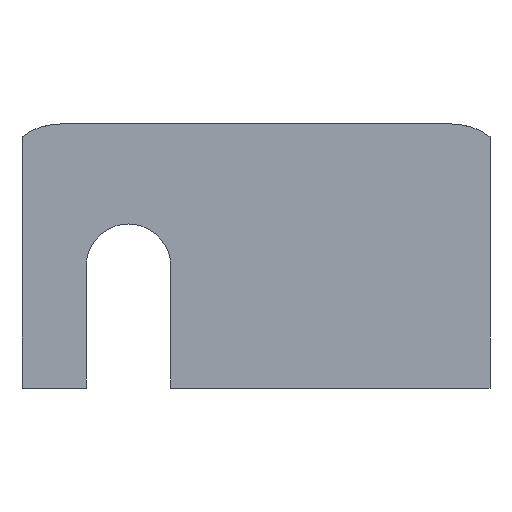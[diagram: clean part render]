
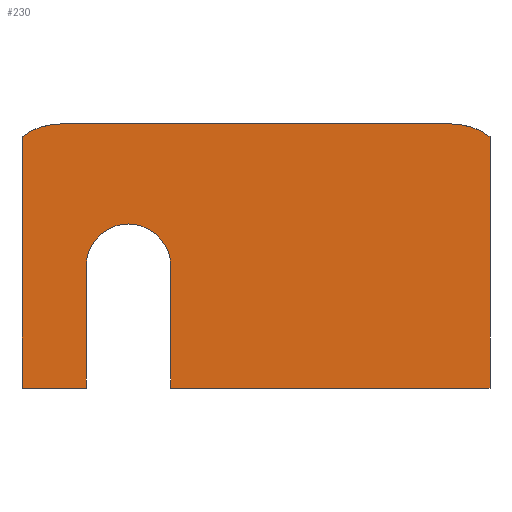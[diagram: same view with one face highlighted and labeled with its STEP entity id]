
A CAD part, left-side view. The second image highlights one B-rep face of the part: STEP entity #230.
In plain terms, the highlighted planar face has unit normal (-1, 0, 0).
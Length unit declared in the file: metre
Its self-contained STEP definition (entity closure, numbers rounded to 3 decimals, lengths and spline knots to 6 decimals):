
#18=CIRCLE('',#261,0.0025);
#19=CIRCLE('',#262,0.0025);
#20=CIRCLE('',#263,0.00165);
#22=LINE('',#347,#45);
#25=LINE('',#355,#48);
#28=LINE('',#368,#51);
#29=LINE('',#371,#52);
#30=LINE('',#373,#53);
#31=LINE('',#377,#54);
#32=LINE('',#379,#55);
#45=VECTOR('',#281,1.);
#48=VECTOR('',#288,1.);
#51=VECTOR('',#299,1.);
#52=VECTOR('',#302,1.);
#53=VECTOR('',#303,1.);
#54=VECTOR('',#306,1.);
#55=VECTOR('',#307,1.);
#78=ORIENTED_EDGE('',*,*,#135,.F.);
#79=ORIENTED_EDGE('',*,*,#144,.T.);
#80=ORIENTED_EDGE('',*,*,#145,.T.);
#81=ORIENTED_EDGE('',*,*,#146,.T.);
#82=ORIENTED_EDGE('',*,*,#139,.T.);
#83=ORIENTED_EDGE('',*,*,#147,.F.);
#84=ORIENTED_EDGE('',*,*,#148,.T.);
#85=ORIENTED_EDGE('',*,*,#149,.F.);
#86=ORIENTED_EDGE('',*,*,#150,.F.);
#87=ORIENTED_EDGE('',*,*,#151,.F.);
#135=EDGE_CURVE('',#167,#169,#22,.T.);
#139=EDGE_CURVE('',#172,#173,#25,.T.);
#144=EDGE_CURVE('',#167,#177,#18,.T.);
#145=EDGE_CURVE('',#177,#178,#28,.T.);
#146=EDGE_CURVE('',#178,#172,#19,.T.);
#147=EDGE_CURVE('',#179,#173,#29,.T.);
#148=EDGE_CURVE('',#179,#180,#30,.T.);
#149=EDGE_CURVE('',#181,#180,#20,.T.);
#150=EDGE_CURVE('',#182,#181,#31,.T.);
#151=EDGE_CURVE('',#169,#182,#32,.T.);
#167=VERTEX_POINT('',#345);
#169=VERTEX_POINT('',#348);
#172=VERTEX_POINT('',#356);
#173=VERTEX_POINT('',#357);
#177=VERTEX_POINT('',#367);
#178=VERTEX_POINT('',#369);
#179=VERTEX_POINT('',#372);
#180=VERTEX_POINT('',#374);
#181=VERTEX_POINT('',#376);
#182=VERTEX_POINT('',#378);
#195=EDGE_LOOP('',(#78,#79,#80,#81,#82,#83,#84,#85,#86,#87));
#208=FACE_BOUND('',#195,.T.);
#221=PLANE('',#260);
#230=ADVANCED_FACE('',(#208),#221,.T.);
#260=AXIS2_PLACEMENT_3D('',#365,#295,#296);
#261=AXIS2_PLACEMENT_3D('',#366,#297,#298);
#262=AXIS2_PLACEMENT_3D('',#370,#300,#301);
#263=AXIS2_PLACEMENT_3D('',#375,#304,#305);
#281=DIRECTION('',(0.,0.,-1.));
#288=DIRECTION('',(0.,0.,-1.));
#295=DIRECTION('',(-1.,0.,0.));
#296=DIRECTION('',(0.,-1.,0.));
#297=DIRECTION('',(-1.,0.,0.));
#298=DIRECTION('',(0.,-1.,0.));
#299=DIRECTION('',(0.,1.,0.));
#300=DIRECTION('',(-1.,0.,0.));
#301=DIRECTION('',(0.,-1.,0.));
#302=DIRECTION('',(0.,1.,0.));
#303=DIRECTION('',(0.,0.,1.));
#304=DIRECTION('',(-1.,0.,0.));
#305=DIRECTION('',(0.,-1.,0.));
#306=DIRECTION('',(0.,0.,1.));
#307=DIRECTION('',(0.,1.,0.));
#345=CARTESIAN_POINT('',(0.013979,-0.009126,0.0128));
#347=CARTESIAN_POINT('',(0.013979,-0.009126,0.0133));
#348=CARTESIAN_POINT('',(0.013979,-0.009126,0.003));
#355=CARTESIAN_POINT('',(0.013979,0.009126,0.0133));
#356=CARTESIAN_POINT('',(0.013979,0.009126,0.0128));
#357=CARTESIAN_POINT('',(0.013979,0.009126,0.003));
#365=CARTESIAN_POINT('',(0.013979,0.,0.0133));
#366=CARTESIAN_POINT('',(0.013979,-0.007625,0.0108));
#367=CARTESIAN_POINT('',(0.013979,-0.007625,0.0133));
#368=CARTESIAN_POINT('',(0.013979,0.,0.0133));
#369=CARTESIAN_POINT('',(0.013979,0.007625,0.0133));
#370=CARTESIAN_POINT('',(0.013979,0.007625,0.0108));
#371=CARTESIAN_POINT('',(0.013979,0.,0.003));
#372=CARTESIAN_POINT('',(0.013979,0.006625,0.003));
#373=CARTESIAN_POINT('',(0.013979,0.006625,0.0133));
#374=CARTESIAN_POINT('',(0.013979,0.006625,0.00775));
#375=CARTESIAN_POINT('',(0.013979,0.004975,0.00775));
#376=CARTESIAN_POINT('',(0.013979,0.003325,0.00775));
#377=CARTESIAN_POINT('',(0.013979,0.003325,0.0133));
#378=CARTESIAN_POINT('',(0.013979,0.003325,0.003));
#379=CARTESIAN_POINT('',(0.013979,0.,0.003));
